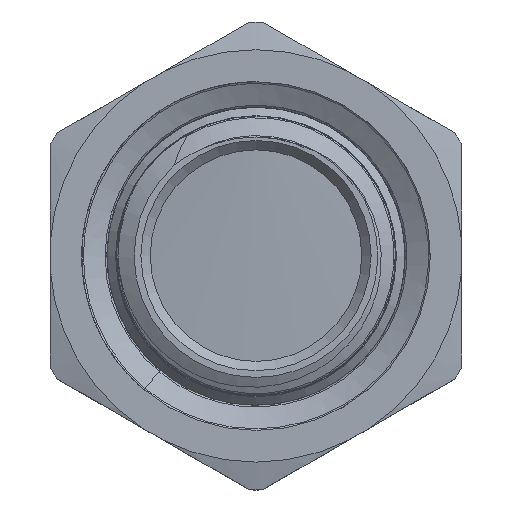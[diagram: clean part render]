
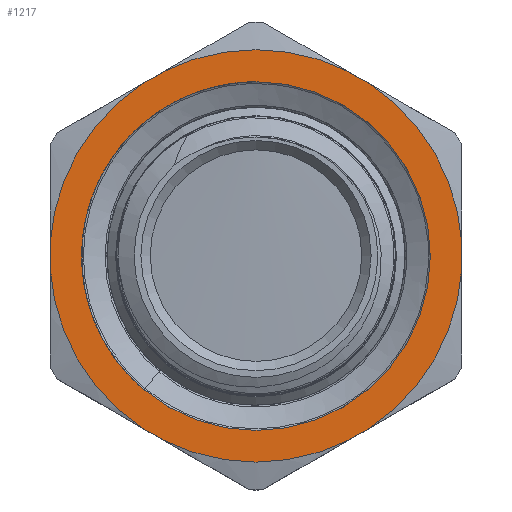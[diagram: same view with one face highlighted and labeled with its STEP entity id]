
A CAD part, top view. The second image highlights one B-rep face of the part: STEP entity #1217.
In plain terms, the highlighted planar face has unit normal (0, 0, -1).
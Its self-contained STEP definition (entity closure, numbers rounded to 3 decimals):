
#17=FACE_BOUND('',#267,.T.);
#28=PLANE('',#1339);
#86=CIRCLE('',#1261,9.315);
#102=CIRCLE('',#1286,11.072);
#104=CIRCLE('',#1289,11.072);
#106=CIRCLE('',#1292,11.072);
#108=CIRCLE('',#1295,11.072);
#110=CIRCLE('',#1298,11.072);
#112=CIRCLE('',#1301,11.072);
#115=CIRCLE('',#1305,9.315);
#121=CIRCLE('',#1325,9.315);
#197=FACE_OUTER_BOUND('',#266,.T.);
#266=EDGE_LOOP('',(#1058,#1059,#1060,#1061,#1062,#1063,#1064,#1065,#1066,
#1067,#1068,#1069));
#267=EDGE_LOOP('',(#1070,#1071,#1072,#1073,#1074));
#325=B_SPLINE_CURVE_WITH_KNOTS('',3,(#5712,#5713,#5714,#5715),
 .UNSPECIFIED.,.F.,.F.,(4,4),(0.3,0.324),
 .UNSPECIFIED.);
#356=LINE('',#4798,#409);
#360=LINE('',#4804,#413);
#364=LINE('',#4810,#417);
#370=LINE('',#4819,#423);
#372=LINE('',#4822,#425);
#374=LINE('',#4826,#427);
#380=LINE('',#8192,#433);
#409=VECTOR('',#1512,10.);
#413=VECTOR('',#1520,10.);
#417=VECTOR('',#1528,10.);
#423=VECTOR('',#1540,10.);
#425=VECTOR('',#1544,10.);
#427=VECTOR('',#1548,10.);
#433=VECTOR('',#1592,10.);
#467=VERTEX_POINT('',#2252);
#469=VERTEX_POINT('',#2255);
#505=VERTEX_POINT('',#2950);
#506=VERTEX_POINT('',#2951);
#509=VERTEX_POINT('',#2963);
#510=VERTEX_POINT('',#2964);
#513=VERTEX_POINT('',#2976);
#514=VERTEX_POINT('',#2977);
#517=VERTEX_POINT('',#2989);
#518=VERTEX_POINT('',#2990);
#521=VERTEX_POINT('',#3002);
#522=VERTEX_POINT('',#3003);
#525=VERTEX_POINT('',#3015);
#526=VERTEX_POINT('',#3016);
#532=VERTEX_POINT('',#3759);
#542=VERTEX_POINT('',#4825);
#548=VERTEX_POINT('',#5707);
#604=EDGE_CURVE('',#467,#469,#86,.T.);
#643=EDGE_CURVE('',#505,#506,#102,.T.);
#647=EDGE_CURVE('',#509,#510,#104,.T.);
#651=EDGE_CURVE('',#513,#514,#106,.T.);
#655=EDGE_CURVE('',#517,#518,#108,.T.);
#659=EDGE_CURVE('',#521,#522,#110,.T.);
#663=EDGE_CURVE('',#525,#526,#112,.T.);
#673=EDGE_CURVE('',#532,#467,#115,.T.);
#690=EDGE_CURVE('',#526,#521,#356,.T.);
#694=EDGE_CURVE('',#522,#517,#360,.T.);
#698=EDGE_CURVE('',#518,#513,#364,.T.);
#704=EDGE_CURVE('',#506,#525,#370,.T.);
#706=EDGE_CURVE('',#510,#505,#372,.T.);
#708=EDGE_CURVE('',#542,#469,#374,.T.);
#718=EDGE_CURVE('',#532,#548,#325,.T.);
#722=EDGE_CURVE('',#548,#542,#121,.T.);
#740=EDGE_CURVE('',#514,#509,#380,.T.);
#1058=ORIENTED_EDGE('',*,*,#663,.T.);
#1059=ORIENTED_EDGE('',*,*,#690,.T.);
#1060=ORIENTED_EDGE('',*,*,#659,.T.);
#1061=ORIENTED_EDGE('',*,*,#694,.T.);
#1062=ORIENTED_EDGE('',*,*,#655,.T.);
#1063=ORIENTED_EDGE('',*,*,#698,.T.);
#1064=ORIENTED_EDGE('',*,*,#651,.T.);
#1065=ORIENTED_EDGE('',*,*,#740,.T.);
#1066=ORIENTED_EDGE('',*,*,#647,.T.);
#1067=ORIENTED_EDGE('',*,*,#706,.T.);
#1068=ORIENTED_EDGE('',*,*,#643,.T.);
#1069=ORIENTED_EDGE('',*,*,#704,.T.);
#1070=ORIENTED_EDGE('',*,*,#708,.T.);
#1071=ORIENTED_EDGE('',*,*,#604,.F.);
#1072=ORIENTED_EDGE('',*,*,#673,.F.);
#1073=ORIENTED_EDGE('',*,*,#718,.T.);
#1074=ORIENTED_EDGE('',*,*,#722,.T.);
#1217=ADVANCED_FACE('',(#197,#17),#28,.F.);
#1261=AXIS2_PLACEMENT_3D('',#2256,#1402,#1403);
#1286=AXIS2_PLACEMENT_3D('',#2952,#1453,#1454);
#1289=AXIS2_PLACEMENT_3D('',#2965,#1459,#1460);
#1292=AXIS2_PLACEMENT_3D('',#2978,#1465,#1466);
#1295=AXIS2_PLACEMENT_3D('',#2991,#1471,#1472);
#1298=AXIS2_PLACEMENT_3D('',#3004,#1477,#1478);
#1301=AXIS2_PLACEMENT_3D('',#3017,#1483,#1484);
#1305=AXIS2_PLACEMENT_3D('',#3768,#1492,#1493);
#1325=AXIS2_PLACEMENT_3D('',#6458,#1559,#1560);
#1339=AXIS2_PLACEMENT_3D('',#8191,#1590,#1591);
#1402=DIRECTION('center_axis',(0.,0.,-1.));
#1403=DIRECTION('ref_axis',(0.,-1.,0.));
#1453=DIRECTION('center_axis',(0.,0.,-1.));
#1454=DIRECTION('ref_axis',(0.,1.,0.));
#1459=DIRECTION('center_axis',(0.,0.,-1.));
#1460=DIRECTION('ref_axis',(0.,1.,0.));
#1465=DIRECTION('center_axis',(0.,0.,-1.));
#1466=DIRECTION('ref_axis',(0.,1.,0.));
#1471=DIRECTION('center_axis',(0.,0.,-1.));
#1472=DIRECTION('ref_axis',(0.,1.,0.));
#1477=DIRECTION('center_axis',(0.,0.,-1.));
#1478=DIRECTION('ref_axis',(0.,1.,0.));
#1483=DIRECTION('center_axis',(0.,0.,-1.));
#1484=DIRECTION('ref_axis',(0.,1.,0.));
#1492=DIRECTION('center_axis',(0.,0.,-1.));
#1493=DIRECTION('ref_axis',(0.,-1.,0.));
#1512=DIRECTION('',(0.866,0.5,0.));
#1520=DIRECTION('',(0.866,-0.5,0.));
#1528=DIRECTION('',(0.,-1.,0.));
#1540=DIRECTION('',(0.,1.,0.));
#1544=DIRECTION('',(-0.866,0.5,0.));
#1548=DIRECTION('',(0.643,0.766,0.));
#1559=DIRECTION('center_axis',(0.,0.,1.));
#1560=DIRECTION('ref_axis',(0.,-1.,0.));
#1590=DIRECTION('center_axis',(0.,0.,1.));
#1591=DIRECTION('ref_axis',(1.,0.,0.));
#1592=DIRECTION('',(-0.866,-0.5,0.));
#2252=CARTESIAN_POINT('',(0.,9.315,10.496));
#2255=CARTESIAN_POINT('',(-5.988,-7.136,10.496));
#2256=CARTESIAN_POINT('Origin',(0.,0.,10.496));
#2950=CARTESIAN_POINT('',(-6.592,-8.896,10.496));
#2951=CARTESIAN_POINT('',(-11.,-1.261,10.496));
#2952=CARTESIAN_POINT('Origin',(0.,0.,10.496));
#2963=CARTESIAN_POINT('',(4.408,-10.157,10.496));
#2964=CARTESIAN_POINT('',(-4.408,-10.157,10.496));
#2965=CARTESIAN_POINT('Origin',(0.,0.,10.496));
#2976=CARTESIAN_POINT('',(11.,-1.261,10.496));
#2977=CARTESIAN_POINT('',(6.592,-8.896,10.496));
#2978=CARTESIAN_POINT('Origin',(0.,0.,10.496));
#2989=CARTESIAN_POINT('',(6.592,8.896,10.496));
#2990=CARTESIAN_POINT('',(11.,1.261,10.496));
#2991=CARTESIAN_POINT('Origin',(0.,0.,10.496));
#3002=CARTESIAN_POINT('',(-4.408,10.157,10.496));
#3003=CARTESIAN_POINT('',(4.408,10.157,10.496));
#3004=CARTESIAN_POINT('Origin',(0.,0.,10.496));
#3015=CARTESIAN_POINT('',(-11.,1.261,10.496));
#3016=CARTESIAN_POINT('',(-6.592,8.896,10.496));
#3017=CARTESIAN_POINT('Origin',(0.,0.,10.496));
#3759=CARTESIAN_POINT('',(-7.939,-4.872,10.496));
#3768=CARTESIAN_POINT('Origin',(0.,0.,10.496));
#4798=CARTESIAN_POINT('',(0.,12.702,10.496));
#4804=CARTESIAN_POINT('',(11.,6.351,10.496));
#4810=CARTESIAN_POINT('',(11.,-6.351,10.496));
#4819=CARTESIAN_POINT('',(-11.,6.351,10.496));
#4822=CARTESIAN_POINT('',(-11.,-6.351,10.496));
#4825=CARTESIAN_POINT('',(-5.988,-7.136,10.496));
#4826=CARTESIAN_POINT('',(-2.856,-3.404,10.496));
#5707=CARTESIAN_POINT('',(-8.066,-4.66,10.496));
#5712=CARTESIAN_POINT('Ctrl Pts',(-7.939,-4.872,10.496));
#5713=CARTESIAN_POINT('Ctrl Pts',(-7.982,-4.802,10.496));
#5714=CARTESIAN_POINT('Ctrl Pts',(-8.024,-4.731,10.496));
#5715=CARTESIAN_POINT('Ctrl Pts',(-8.065,-4.66,10.496));
#6458=CARTESIAN_POINT('Origin',(0.,0.,10.496));
#8191=CARTESIAN_POINT('Origin',(0.,0.,
10.496));
#8192=CARTESIAN_POINT('',(0.,-12.702,10.496));
